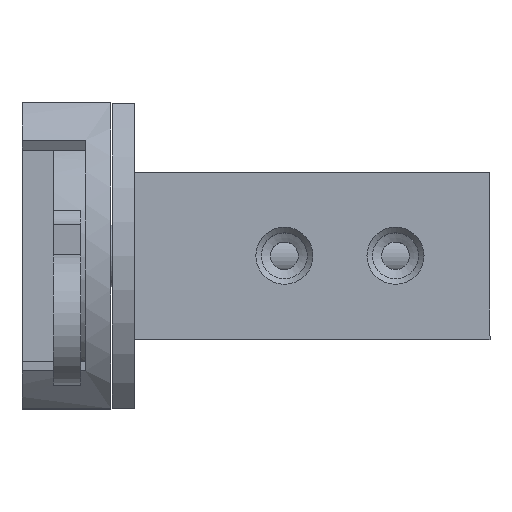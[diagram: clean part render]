
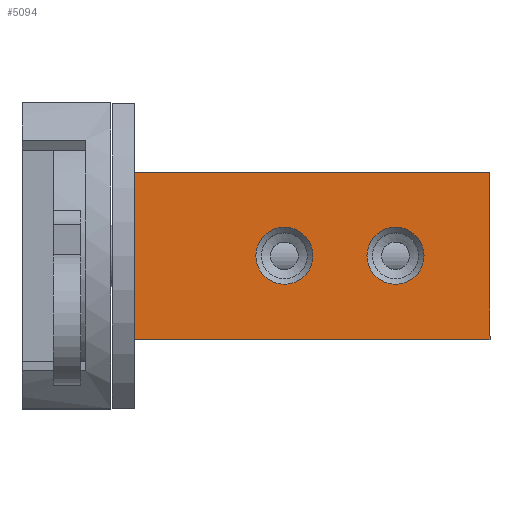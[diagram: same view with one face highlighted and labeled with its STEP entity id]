
A CAD part, top view. The second image highlights one B-rep face of the part: STEP entity #5094.
In plain terms, the highlighted planar face has unit normal (0, 0, 1).
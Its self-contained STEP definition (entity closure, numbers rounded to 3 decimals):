
#181=LINE('',#8949,#587);
#183=LINE('',#8956,#589);
#186=LINE('',#8977,#592);
#200=LINE('',#9178,#606);
#587=VECTOR('',#7539,1000.);
#589=VECTOR('',#7545,1000.);
#592=VECTOR('',#7568,1000.);
#606=VECTOR('',#7598,1000.);
#999=PLANE('',#7003);
#1334=ORIENTED_EDGE('',*,*,#2759,.T.);
#1335=ORIENTED_EDGE('',*,*,#2760,.T.);
#1336=ORIENTED_EDGE('',*,*,#2720,.T.);
#1337=ORIENTED_EDGE('',*,*,#2708,.T.);
#1338=ORIENTED_EDGE('',*,*,#2761,.F.);
#1339=ORIENTED_EDGE('',*,*,#2711,.F.);
#2708=EDGE_CURVE('',#3427,#3430,#181,.T.);
#2711=EDGE_CURVE('',#3433,#3434,#183,.T.);
#2720=EDGE_CURVE('',#3433,#3427,#186,.T.);
#2759=EDGE_CURVE('',#3479,#3479,#3930,.F.);
#2760=EDGE_CURVE('',#3480,#3480,#3931,.F.);
#2761=EDGE_CURVE('',#3434,#3430,#200,.T.);
#3427=VERTEX_POINT('',#8943);
#3430=VERTEX_POINT('',#8948);
#3433=VERTEX_POINT('',#8955);
#3434=VERTEX_POINT('',#8957);
#3479=VERTEX_POINT('',#9175);
#3480=VERTEX_POINT('',#9177);
#3930=CIRCLE('',#7004,2.567);
#3931=CIRCLE('',#7005,2.567);
#4153=EDGE_LOOP('',(#1334));
#4154=EDGE_LOOP('',(#1335));
#4155=EDGE_LOOP('',(#1336,#1337,#1338,#1339));
#4616=FACE_BOUND('',#4153,.T.);
#4617=FACE_BOUND('',#4154,.T.);
#4618=FACE_BOUND('',#4155,.T.);
#5094=ADVANCED_FACE('',(#4616,#4617,#4618),#999,.T.);
#7003=AXIS2_PLACEMENT_3D('',#9173,#7592,#7593);
#7004=AXIS2_PLACEMENT_3D('',#9174,#7594,#7595);
#7005=AXIS2_PLACEMENT_3D('',#9176,#7596,#7597);
#7539=DIRECTION('',(0.,-1.,0.));
#7545=DIRECTION('',(0.,-1.,0.));
#7568=DIRECTION('',(-1.,0.,0.));
#7592=DIRECTION('',(0.,0.,1.));
#7593=DIRECTION('',(-1.,0.,0.));
#7594=DIRECTION('',(0.,0.,1.));
#7595=DIRECTION('',(0.,-1.,0.));
#7596=DIRECTION('',(0.,0.,1.));
#7597=DIRECTION('',(0.,-1.,0.));
#7598=DIRECTION('',(-1.,0.,0.));
#8943=CARTESIAN_POINT('',(-42.,7.5,12.5));
#8948=CARTESIAN_POINT('',(-42.,-7.5,12.5));
#8949=CARTESIAN_POINT('',(-42.,7.5,12.5));
#8955=CARTESIAN_POINT('',(-10.,7.5,12.5));
#8956=CARTESIAN_POINT('',(-10.,7.5,12.5));
#8957=CARTESIAN_POINT('',(-10.,-7.5,12.5));
#8977=CARTESIAN_POINT('',(-10.,7.5,12.5));
#9173=CARTESIAN_POINT('',(-10.,7.5,12.5));
#9174=CARTESIAN_POINT('',(-18.5,0.,12.5));
#9175=CARTESIAN_POINT('',(-18.5,-2.567,12.5));
#9176=CARTESIAN_POINT('',(-28.5,0.,12.5));
#9177=CARTESIAN_POINT('',(-28.5,-2.567,12.5));
#9178=CARTESIAN_POINT('',(-10.,-7.5,12.5));
